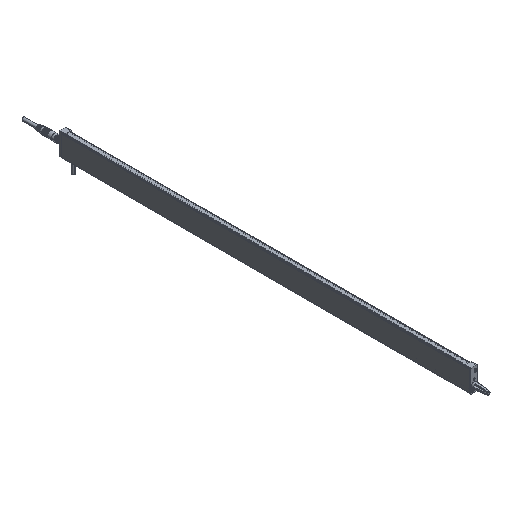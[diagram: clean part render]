
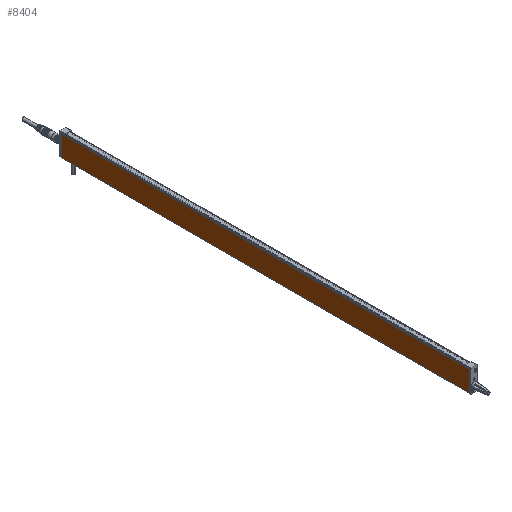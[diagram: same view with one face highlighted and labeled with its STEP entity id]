
A CAD part, isometric view. The second image highlights one B-rep face of the part: STEP entity #8404.
In plain terms, the highlighted planar face has unit normal (-1, 0, 0).
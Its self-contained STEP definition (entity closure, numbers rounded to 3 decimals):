
#152 = AXIS2_PLACEMENT_3D ( 'NONE', #22163, #1004, #16565 ) ;
#1004 = DIRECTION ( 'NONE',  ( -1., 0., 0. ) ) ;
#1362 = VECTOR ( 'NONE', #30676, 1000. ) ;
#2176 = FACE_OUTER_BOUND ( 'NONE', #28906, .T. ) ;
#2623 = CARTESIAN_POINT ( 'NONE',  ( -9., 560., 28.5 ) ) ;
#2813 = EDGE_CURVE ( 'NONE', #23051, #8092, #8368, .T. ) ;
#3425 = LINE ( 'NONE', #22958, #1362 ) ;
#3673 = VECTOR ( 'NONE', #5364, 1000. ) ;
#5315 = CARTESIAN_POINT ( 'NONE',  ( -9., 560., 28.5 ) ) ;
#5364 = DIRECTION ( 'NONE',  ( 0., -1., 0. ) ) ;
#6227 = EDGE_CURVE ( 'NONE', #23051, #15021, #6574, .T. ) ;
#6373 = PLANE ( 'NONE',  #152 ) ;
#6574 = LINE ( 'NONE', #29352, #33538 ) ;
#8029 = ORIENTED_EDGE ( 'NONE', *, *, #19827, .F. ) ;
#8092 = VERTEX_POINT ( 'NONE', #16712 ) ;
#8368 = LINE ( 'NONE', #5315, #28410 ) ;
#8404 = ADVANCED_FACE ( 'NONE', ( #2176 ), #6373, .T. ) ;
#9487 = ORIENTED_EDGE ( 'NONE', *, *, #15692, .T. ) ;
#10594 = VERTEX_POINT ( 'NONE', #31006 ) ;
#12578 = ORIENTED_EDGE ( 'NONE', *, *, #2813, .T. ) ;
#15021 = VERTEX_POINT ( 'NONE', #28614 ) ;
#15692 = EDGE_CURVE ( 'NONE', #8092, #10594, #19685, .T. ) ;
#16565 = DIRECTION ( 'NONE',  ( 0., -1., 0. ) ) ;
#16712 = CARTESIAN_POINT ( 'NONE',  ( -9., 560., 0.5 ) ) ;
#19685 = LINE ( 'NONE', #23559, #3673 ) ;
#19827 = EDGE_CURVE ( 'NONE', #15021, #10594, #3425, .T. ) ;
#22163 = CARTESIAN_POINT ( 'NONE',  ( -9., 560., 28.5 ) ) ;
#22958 = CARTESIAN_POINT ( 'NONE',  ( -9., 0., 28.5 ) ) ;
#23051 = VERTEX_POINT ( 'NONE', #2623 ) ;
#23559 = CARTESIAN_POINT ( 'NONE',  ( -9., 560., 0.5 ) ) ;
#23908 = DIRECTION ( 'NONE',  ( 0., -1., 0. ) ) ;
#28410 = VECTOR ( 'NONE', #31583, 1000. ) ;
#28614 = CARTESIAN_POINT ( 'NONE',  ( -9., 0., 28.5 ) ) ;
#28727 = ORIENTED_EDGE ( 'NONE', *, *, #6227, .F. ) ;
#28906 = EDGE_LOOP ( 'NONE', ( #8029, #28727, #12578, #9487 ) ) ;
#29352 = CARTESIAN_POINT ( 'NONE',  ( -9., 560., 28.5 ) ) ;
#30676 = DIRECTION ( 'NONE',  ( 0., 0., -1. ) ) ;
#31006 = CARTESIAN_POINT ( 'NONE',  ( -9., 0., 0.5 ) ) ;
#31583 = DIRECTION ( 'NONE',  ( 0., 0., -1. ) ) ;
#33538 = VECTOR ( 'NONE', #23908, 1000. ) ;
